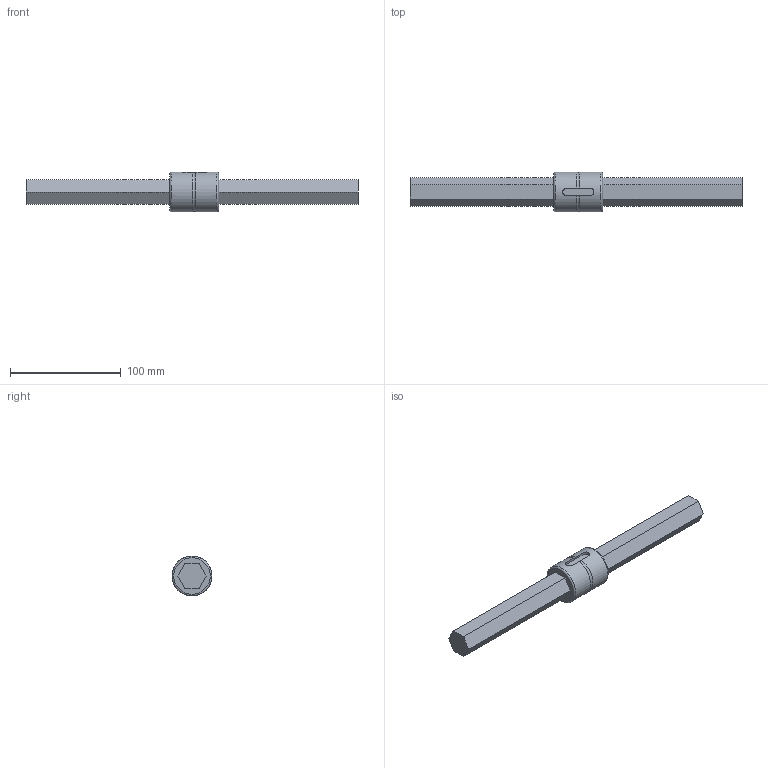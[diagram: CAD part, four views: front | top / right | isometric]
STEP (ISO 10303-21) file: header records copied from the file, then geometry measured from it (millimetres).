
FILE_DESCRIPTION((''),'2;1');
FILE_NAME('D:\製品 (図面)\カタログ用3D\ネジ関連\STEP形式\HTS\HTS22.stp','2010-06-01T16:50:36',('Tsuchiya'),(''),'Autodesk Inventor 10','Autodesk Inventor 10','');
FILE_SCHEMA(('AUTOMOTIVE_DESIGN { 1 0 10303 214 1 1 1 1 }'));
Length unit declared in the file: millimetre
Products named in the file (3): HTS22; HTS221; HTS222
Assembly tree (2 placements, depth 2):
  HTS22
    HTS221
    HTS222
Bounding box: 300 x 36 x 36 mm (x, y, z)
Volume: 151020.7 mm3; surface area: 33542.4 mm2
Topology: 2 solids, 2 shells, 36 faces, 89 edges, 59 vertices
Faces by surface type: plane 27, cylinder 6, torus 2, bspline 1
Full cylindrical faces by diameter (mm): 2 x1, 26.5 x1, 36 x2
Entity records: 1359 total; most frequent: CARTESIAN_POINT 460, DIRECTION 164, ORIENTED_EDGE 164, EDGE_CURVE 82, VECTOR 64, LINE 64, VERTEX_POINT 58, AXIS2_PLACEMENT_3D 50
